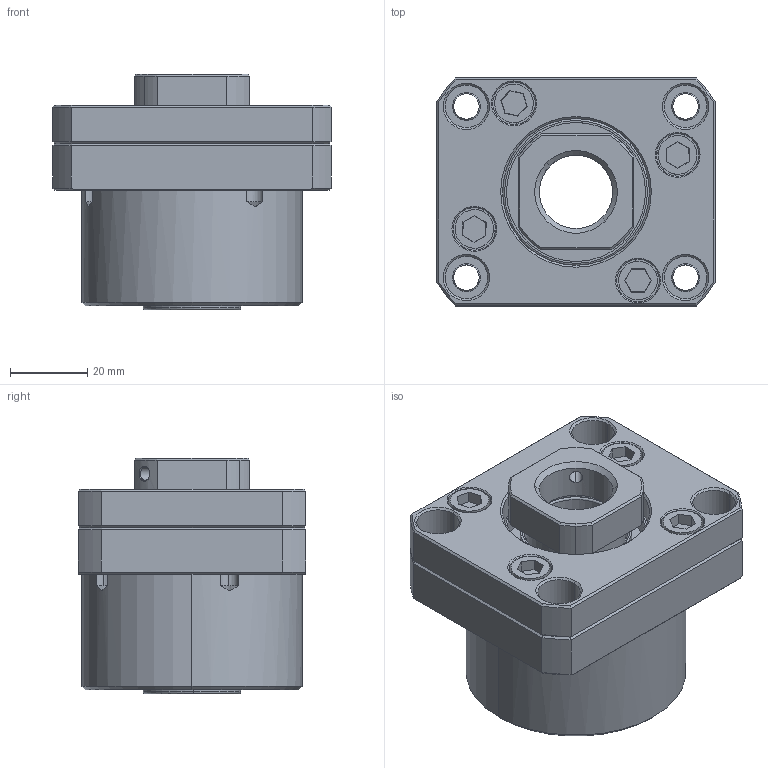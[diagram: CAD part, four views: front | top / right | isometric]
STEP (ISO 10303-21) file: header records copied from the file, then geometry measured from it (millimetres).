
FILE_DESCRIPTION (( 'STEP AP203' ), '1' );
FILE_NAME ('FKA20²Õ¦X¥óA.STEP', '2021-09-29T02:59:48', ( '' ), ( '' ), 'SwSTEP 2.0', 'SolidWorks 2018', '' );
FILE_SCHEMA (( 'CONFIG_CONTROL_DESIGN' ));
Length unit declared in the file: millimetre
Products named in the file (1): FKA20組合件A
Bounding box: 72 x 59 x 61 mm (x, y, z)
Surface area: 37358.2 mm2 (no closed solid volume)
Topology: 0 solids, 16 shells, 247 faces, 634 edges, 401 vertices
Faces by surface type: cylinder 89, plane 79, cone 55, torus 20, bspline 4
Entity records: 8074 total; most frequent: CARTESIAN_POINT 1923, DIRECTION 1363, ORIENTED_EDGE 1139, EDGE_CURVE 634, AXIS2_PLACEMENT_3D 551, VERTEX_POINT 401, CIRCLE 307, EDGE_LOOP 289
